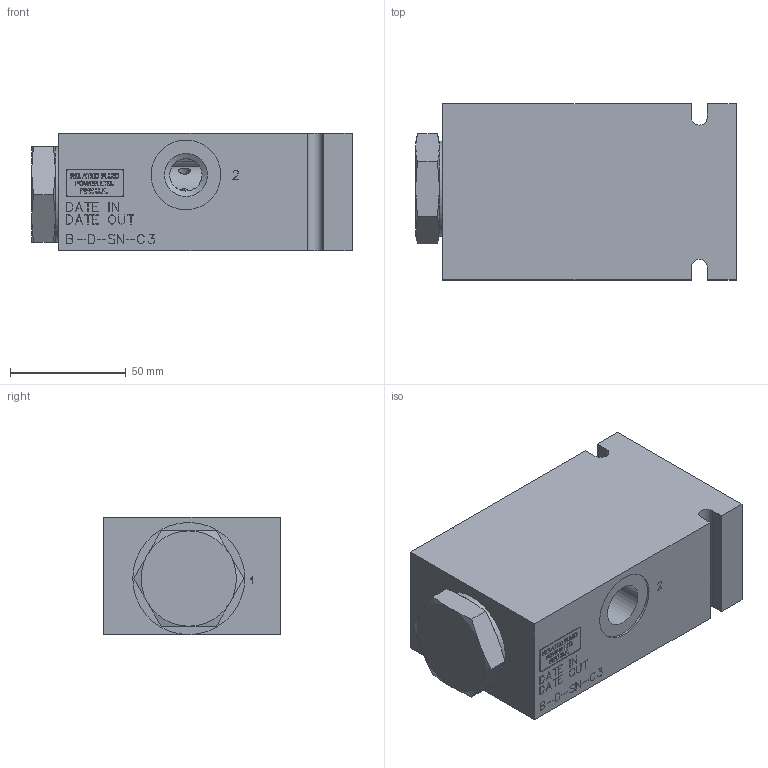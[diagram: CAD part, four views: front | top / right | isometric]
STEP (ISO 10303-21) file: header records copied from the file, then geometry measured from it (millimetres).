
FILE_DESCRIPTION( ( 'Unknown' ), '1' );
FILE_NAME( 'G:/Graphic Design/Graphic Design 2/Data Sheets/FLOW CONTROLS/2_STEP/Flow Divide_Combiner Valves/D-SNFDA00-A3.stp', 'Unknown', ( 'Unknown' ), ( 'Unknown' ), 'PSStep 17.0.49', 'Unknown', ' ' );
FILE_SCHEMA( ( 'AUTOMOTIVE_DESIGN { 1 0 10303 214 1 1 1 1 }' ) );
Length unit declared in the file: millimetre
Products named in the file (14): Assem1; SNFDA00-3D Full1; SNFDA00-3D Full2; SNFDA00-3D Full3; SNFDA00-3D Full4; SNFDA00-3D Full5; SNFDA00-3D Full6; SNFDA00-3D Full7; SNFDA00-3D Full8; SNFDA00-3D Full9; SNFDA00-3D Full10; SNFDA00-3D Full11; SNFDA00-3D Full12; B-DSNCC
Assembly tree (13 placements, depth 2):
  Assem1
    SNFDA00-3D Full1
    SNFDA00-3D Full2
    SNFDA00-3D Full3
    SNFDA00-3D Full4
    SNFDA00-3D Full5
    SNFDA00-3D Full6
    SNFDA00-3D Full7
    SNFDA00-3D Full8
    SNFDA00-3D Full9
    SNFDA00-3D Full10
    SNFDA00-3D Full11
    SNFDA00-3D Full12
    B-DSNCC
Bounding box: 138.7 x 76.2 x 50.8 mm (x, y, z)
Volume: 457738.6 mm3; surface area: 84905.7 mm2
Topology: 13 solids, 13 shells, 1122 faces, 2983 edges, 1978 vertices
Faces by surface type: plane 846, cylinder 113, extrusion 108, cone 46, torus 9
Full cylindrical faces by diameter (mm): 4.369 x12, 5.102 x2, 5.156 x18, 9.652 x2, 11.1 x2, 13.716 x4, 14 x2, 14.732 x2, 15.494 x2, 15.824 x1, 15.875 x7, 15.897 x2, 18.631 x2, 18.8 x4, 21.006 x1, 21.057 x2, 22.581 x1, 22.631 x2, 23 x1, 23.876 x3, 24.181 x1, 24.232 x2, 25.349 x2, 25.375 x2, 25.45 x1, 26.924 x2, 26.949 x2, 27.025 x1, 28.524 x2, 28.55 x2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
Entity records: 45844 total; most frequent: CARTESIAN_POINT 11834, ORIENTED_EDGE 5540, DIRECTION 3916, EDGE_CURVE 2770, VERTEX_POINT 1919, VECTOR 1446, EDGE_LOOP 1434, LINE 1338
